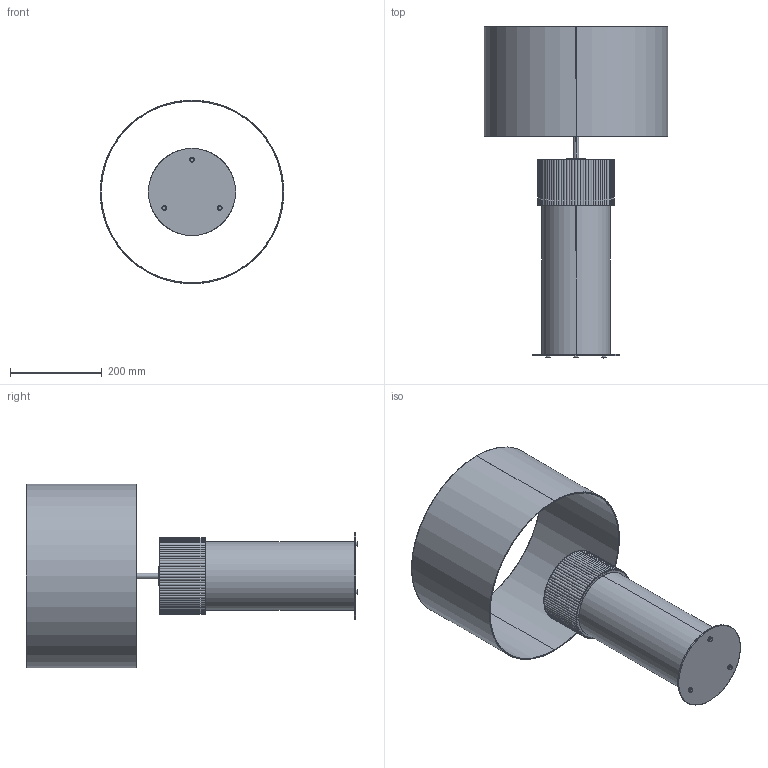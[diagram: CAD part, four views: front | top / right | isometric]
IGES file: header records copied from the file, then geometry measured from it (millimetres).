
Start section: SolidWorks IGES file using analytic representation for surfaces
Global section: file name: C:\Users\Agustin\Desktop\ENERO 2025\2D-3D\2D-3D ROCK_NAC141\ROCK_NAC141_L.IGS; native system: SolidWorks 2018; preprocessor: SolidWorks 2018; author: Agustin; date: 250306.092936; units: millimetre
Bounding box: 400 x 723 x 400 mm (x, y, z)
Surface area: 1194214.5 mm2 (no closed solid volume)
Topology: 0 solids, 0 shells, 174 faces, 4184 edges, 4184 vertices
Faces by surface type: revolution 149, bspline 25
